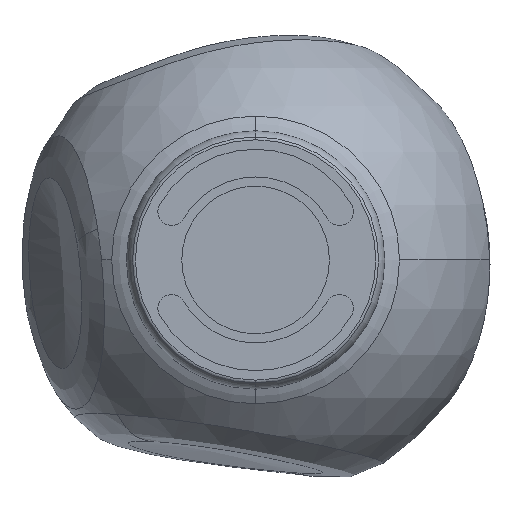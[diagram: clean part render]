
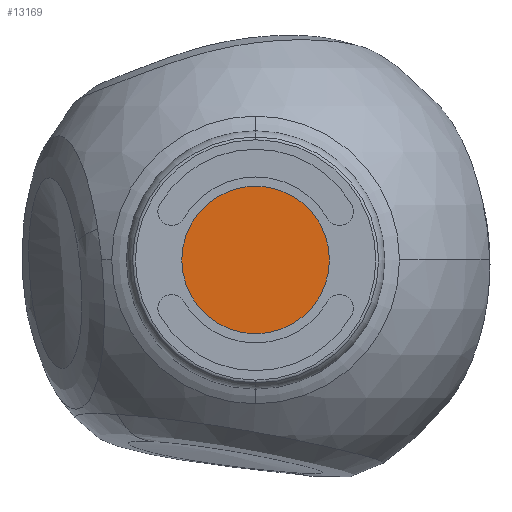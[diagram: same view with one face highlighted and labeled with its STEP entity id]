
A CAD part, front view. The second image highlights one B-rep face of the part: STEP entity #13169.
In plain terms, the highlighted planar face has unit normal (0, -1, 0).
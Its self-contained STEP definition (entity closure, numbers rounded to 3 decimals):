
#356 = CARTESIAN_POINT ( 'NONE',  ( 0., 0.5, 20. ) ) ;
#1551 = CIRCLE ( 'NONE', #15006, 20. ) ;
#2041 = CARTESIAN_POINT ( 'NONE',  ( 0., 0.5, 0. ) ) ;
#2096 = AXIS2_PLACEMENT_3D ( 'NONE', #5640, #10832, #4401 ) ;
#2124 = CARTESIAN_POINT ( 'NONE',  ( 0., 0.5, -20. ) ) ;
#2696 = DIRECTION ( 'NONE',  ( 0., -1., 0. ) ) ;
#3137 = CIRCLE ( 'NONE', #5508, 20. ) ;
#3503 = PLANE ( 'NONE',  #2096 ) ;
#4401 = DIRECTION ( 'NONE',  ( 0., 0., -1. ) ) ;
#4759 = ORIENTED_EDGE ( 'NONE', *, *, #12043, .T. ) ;
#5508 = AXIS2_PLACEMENT_3D ( 'NONE', #2041, #5752, #12011 ) ;
#5640 = CARTESIAN_POINT ( 'NONE',  ( 0., 0.5, 0. ) ) ;
#5752 = DIRECTION ( 'NONE',  ( 0., -1., 0. ) ) ;
#5812 = FACE_OUTER_BOUND ( 'NONE', #9436, .T. ) ;
#7732 = DIRECTION ( 'NONE',  ( 0., 0., -1. ) ) ;
#9436 = EDGE_LOOP ( 'NONE', ( #4759, #12324 ) ) ;
#10832 = DIRECTION ( 'NONE',  ( 0., -1., 0. ) ) ;
#12011 = DIRECTION ( 'NONE',  ( 0., 0., -1. ) ) ;
#12043 = EDGE_CURVE ( 'NONE', #14559, #12809, #1551, .T. ) ;
#12324 = ORIENTED_EDGE ( 'NONE', *, *, #14666, .T. ) ;
#12444 = CARTESIAN_POINT ( 'NONE',  ( 0., 0.5, 0. ) ) ;
#12809 = VERTEX_POINT ( 'NONE', #356 ) ;
#13169 = ADVANCED_FACE ( 'NONE', ( #5812 ), #3503, .T. ) ;
#14559 = VERTEX_POINT ( 'NONE', #2124 ) ;
#14666 = EDGE_CURVE ( 'NONE', #12809, #14559, #3137, .T. ) ;
#15006 = AXIS2_PLACEMENT_3D ( 'NONE', #12444, #2696, #7732 ) ;
